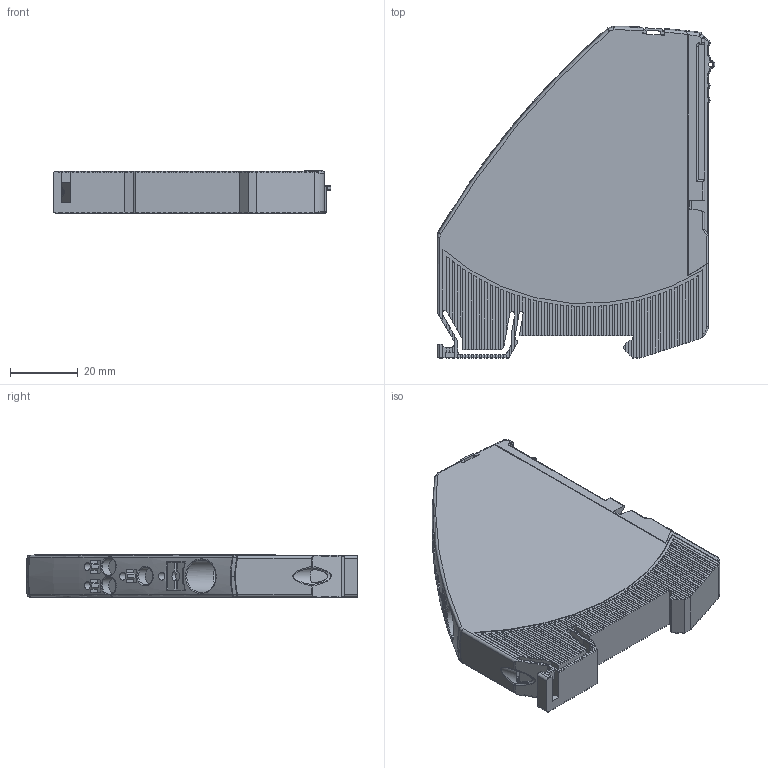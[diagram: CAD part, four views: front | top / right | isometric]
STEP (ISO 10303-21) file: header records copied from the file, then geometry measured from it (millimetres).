
FILE_DESCRIPTION((''),'2;1');
FILE_NAME('T-EM12-T00-000-GND','2017-06-08T',('hroth'),(''),'PRO/ENGINEER BY PARAMETRIC TECHNOLOGY CORPORATION, 2014200','PRO/ENGINEER BY PARAMETRIC TECHNOLOGY CORPORATION, 2014200','');
FILE_SCHEMA(('AUTOMOTIVE_DESIGN { 1 0 10303 214 1 1 1 1 }'));
Length unit declared in the file: millimetre
Products named in the file (1): T-EM12-T00-000-GND
Bounding box: 81.9 x 97.95 x 12.4 mm (x, y, z)
Volume: 71062.1 mm3; surface area: 19723.7 mm2
Topology: 1 solids, 1 shells, 1211 faces, 3405 edges, 2231 vertices
Faces by surface type: plane 842, cylinder 225, bspline 55, extrusion 41, torus 37, sphere 9, cone 2
Entity records: 45759 total; most frequent: CARTESIAN_POINT 13742, ORIENTED_EDGE 6810, DIRECTION 5915, EDGE_CURVE 3405, VECTOR 2641, LINE 2600, VERTEX_POINT 2231, AXIS2_PLACEMENT_3D 1637
